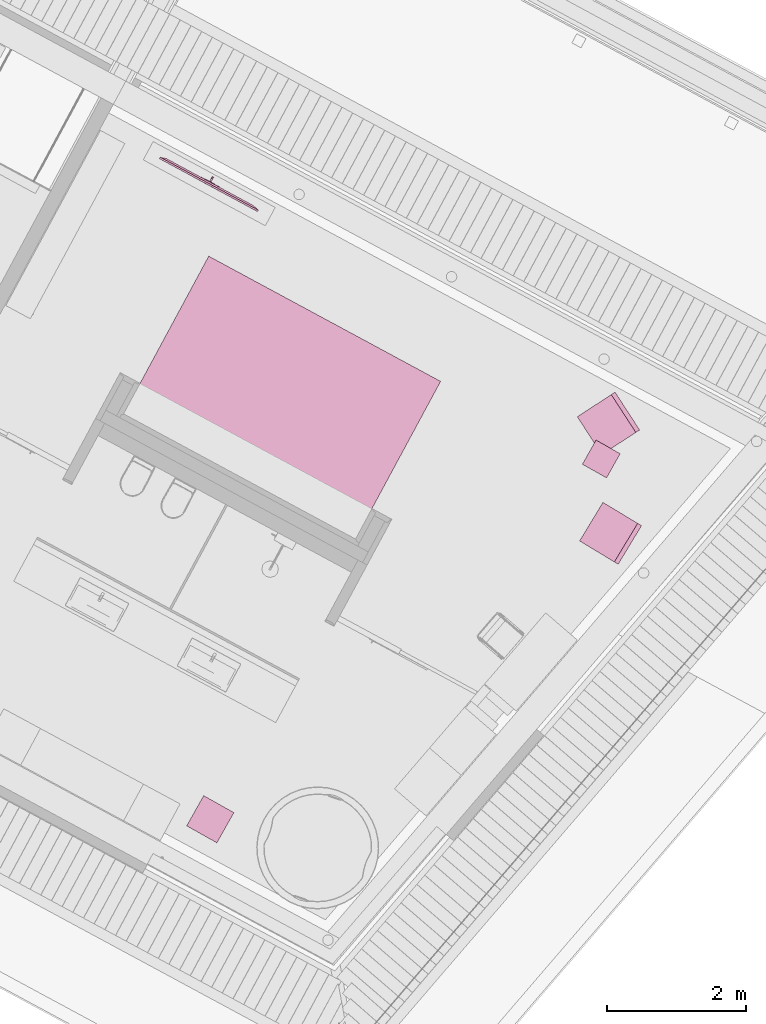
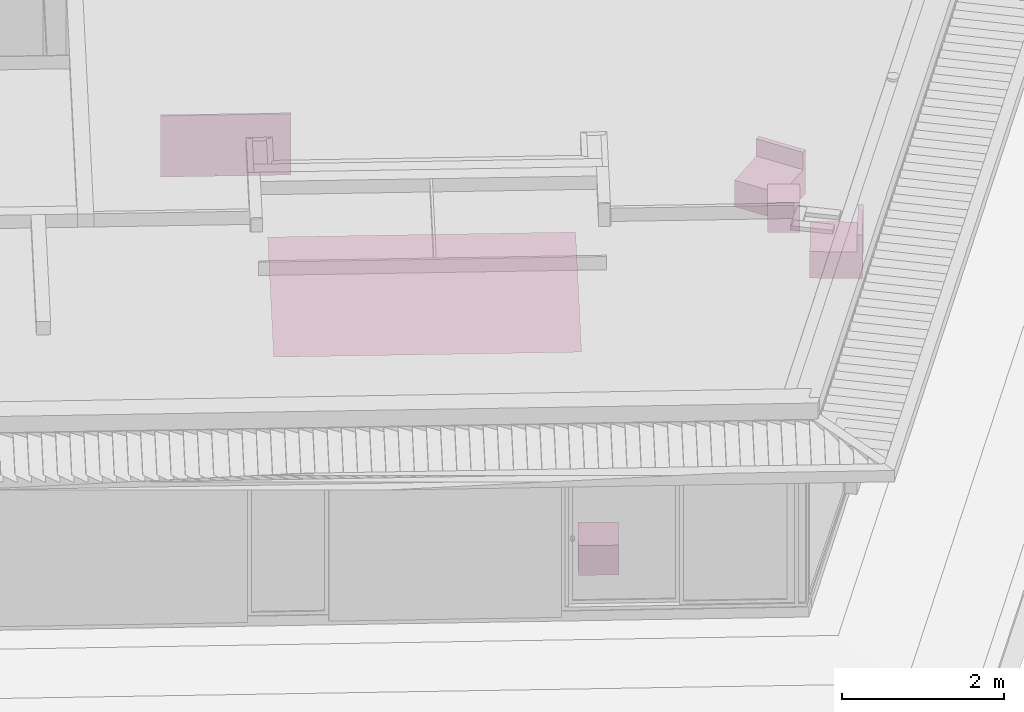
# One storey, part 24 of 48: 6 furnishings.
"""IFC2X3 building model written with IfcOpenShell, lengths in metres."""

from ifc_helpers import new_model, entity, si_unit, converted_unit, derived_unit, money_unit, direction, frame, origin_with_axes, place, context, subcontext, project, spatial, open_shell, faceted_brep, surface_model, source, transform, mapped, type_object, element, save


model = new_model("IFC2X3")

# Units and contexts
model_context = context("Model", 3, precision=1e-05, world=origin_with_axes(), true_north=direction((0.0, 1.0)))
body_context = subcontext(model_context, "Body", "Model", "MODEL_VIEW")
ifc_project = project(units=[si_unit("LENGTHUNIT", "METRE"), si_unit("AREAUNIT", "SQUARE_METRE"), si_unit("VOLUMEUNIT", "CUBIC_METRE"), converted_unit("PLANEANGLEUNIT", "DEGREE", entity("IfcPlaneAngleMeasure", 0.0174532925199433), si_unit("PLANEANGLEUNIT", "RADIAN"), dimensions=[0, 0, 0, 0, 0, 0, 0]), money_unit("EUR"), converted_unit("TIMEUNIT", "Year", entity("IfcTimeMeasure", 31556926.0), si_unit("TIMEUNIT", "SECOND"), dimensions=[0, 0, 1, 0, 0, 0, 0]), si_unit("MASSUNIT", "GRAM", prefix="KILO"), si_unit("THERMODYNAMICTEMPERATUREUNIT", "DEGREE_CELSIUS"), si_unit("LUMINOUSINTENSITYUNIT", "LUMEN"), si_unit("ENERGYUNIT", "JOULE", prefix="MEGA"), derived_unit("THERMALCONDUCTANCEUNIT", [(si_unit("POWERUNIT", "WATT"), 1), (si_unit("LENGTHUNIT", "METRE"), -1), (si_unit("THERMODYNAMICTEMPERATUREUNIT", "KELVIN"), -1)]), derived_unit("SPECIFICHEATCAPACITYUNIT", [(si_unit("ENERGYUNIT", "JOULE"), 1), (si_unit("MASSUNIT", "GRAM", prefix="KILO"), -1), (si_unit("THERMODYNAMICTEMPERATUREUNIT", "KELVIN"), -1)]), derived_unit("MASSDENSITYUNIT", [(si_unit("MASSUNIT", "GRAM", prefix="KILO"), 1), (si_unit("VOLUMEUNIT", "CUBIC_METRE"), -1)])], contexts=[model_context])

# Site, building, storey
site_placement = place(None, frame((-3.949935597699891, 1.740105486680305, 0.0), z_axis=(0.0, 0.0, 1.0), x_axis=(0.8799804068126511, -0.475009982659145, 0.0)))
site = spatial("IfcSite", under=ifc_project, at=site_placement, Name="Gelände", CompositionType="ELEMENT")
building_placement = place(site_placement, origin_with_axes())
building = spatial("IfcBuilding", under=site, at=building_placement, Name="Gebäude", CompositionType="ELEMENT")
storey_placement = place(building_placement, frame((0.0, 0.0, 4.55), z_axis=(0.0, 0.0, 1.0), x_axis=(1.0, 0.0, 0.0)))
storey = spatial("IfcBuildingStorey", under=building, at=storey_placement, Name="Staffelgeschoss", CompositionType="ELEMENT", Elevation=4.55)

# Furnishings
furnishing_element_type_1 = type_object("IfcFurnishingElementType", Name="Flachbildfernseher 22")
shared_shape_1 = source(origin_with_axes(), body_context, "Body", "Brep", [
    faceted_brep([(-0.7294179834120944, 0.06000000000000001, 0.5362351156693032), (-0.8794179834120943, 0.06000000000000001, 0.5362351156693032), (-0.8794179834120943, 0.05000000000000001, 0.5362351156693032), (-0.7294179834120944, 0.05000000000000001, 0.5362351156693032), (-0.7294179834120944, 0.06, 0.3862351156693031), (-0.8794179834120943, 0.06, 0.3862351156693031), (-0.8794179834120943, 0.05, 0.3862351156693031), (-0.7294179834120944, 0.05, 0.3862351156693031)], [[[0, 1, 2, 3]], [[0, 4, 5, 1]], [[1, 5, 6, 2]], [[3, 2, 6, 7]], [[4, 0, 3, 7]], [[5, 4, 7, 6]]]),
    faceted_brep([(-0.6544179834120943, 0.055, 0.3662351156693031), (-0.6544179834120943, 0.055, 0.3862351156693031), (-0.6544179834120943, 0.05, 0.3862351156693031), (-0.6544179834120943, 0.05, 0.3662351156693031), (-0.9544179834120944, 0.055, 0.3662351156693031), (-0.9544179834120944, 0.055, 0.3862351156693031), (-0.9544179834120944, 0.05, 0.3862351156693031), (-0.9544179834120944, 0.05, 0.3662351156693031)], [[[0, 1, 2, 3]], [[0, 4, 5, 1]], [[1, 5, 6, 2]], [[3, 2, 6, 7]], [[4, 0, 3, 7]], [[5, 4, 7, 6]]]),
    faceted_brep([(-0.6544179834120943, 0.05500000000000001, 0.5562351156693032), (-0.6544179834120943, 0.05000000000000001, 0.5562351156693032), (-0.6544179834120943, 0.05000000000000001, 0.5362351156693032), (-0.6544179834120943, 0.05500000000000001, 0.5362351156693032), (-0.9544179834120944, 0.05500000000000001, 0.5562351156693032), (-0.9544179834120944, 0.05000000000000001, 0.5562351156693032), (-0.9544179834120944, 0.05000000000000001, 0.5362351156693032), (-0.9544179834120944, 0.05500000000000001, 0.5362351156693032)], [[[0, 1, 2, 3]], [[4, 5, 1, 0]], [[1, 5, 6, 2]], [[3, 2, 6, 7]], [[0, 3, 7, 4]], [[7, 6, 5, 4]]]),
    faceted_brep([(-0.6694179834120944, 0.05999999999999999, 0.3487351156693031), (-0.6694179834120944, 0.06, 0.5737351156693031), (-0.6594179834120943, 0.06, 0.5737351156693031), (-0.6594179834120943, 0.05999999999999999, 0.3487351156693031), (-0.6694179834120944, 0.04999999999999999, 0.3112351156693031), (-0.6694179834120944, 0.05, 0.6112351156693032), (-0.6594179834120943, 0.05, 0.6112351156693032), (-0.6594179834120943, 0.04999999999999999, 0.3112351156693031)], [[[0, 1, 2, 3]], [[0, 4, 5, 1]], [[1, 5, 6, 2]], [[3, 2, 6, 7]], [[4, 0, 3, 7]], [[5, 4, 7, 6]]]),
    faceted_brep([(-0.9394179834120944, 0.06, 0.3487351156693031), (-0.9494179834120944, 0.06, 0.3487351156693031), (-0.9494179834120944, 0.06000000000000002, 0.5737351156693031), (-0.9394179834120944, 0.06000000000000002, 0.5737351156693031), (-0.9394179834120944, 0.05, 0.3112351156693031), (-0.9494179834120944, 0.05, 0.3112351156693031), (-0.9494179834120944, 0.05000000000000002, 0.6112351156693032), (-0.9394179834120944, 0.05000000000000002, 0.6112351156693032)], [[[0, 1, 2, 3]], [[4, 5, 1, 0]], [[1, 5, 6, 2]], [[3, 2, 6, 7]], [[0, 3, 7, 4]], [[7, 6, 5, 4]]]),
    faceted_brep([(-0.8169179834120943, 0.09375000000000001, 0.4737351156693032), (-0.8161641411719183, 0.09802525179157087, 0.4737351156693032), (-0.8161641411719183, 0.09802525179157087, 0.4237351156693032), (-0.8169179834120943, 0.09375000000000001, 0.4237351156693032), (-0.8161641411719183, 0.08947474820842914, 0.4737351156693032), (-0.8139935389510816, 0.08571515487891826, 0.4737351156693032), (-0.8106679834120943, 0.08292468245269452, 0.4737351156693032), (-0.806588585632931, 0.0814399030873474, 0.4737351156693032), (-0.8022473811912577, 0.08143990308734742, 0.4737351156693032), (-0.7981679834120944, 0.08292468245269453, 0.4737351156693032), (-0.7948424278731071, 0.08571515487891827, 0.4737351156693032), (-0.7926718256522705, 0.08947474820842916, 0.4737351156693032), (-0.7919179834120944, 0.09375000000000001, 0.4737351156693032), (-0.7926718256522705, 0.09802525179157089, 0.4737351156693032), (-0.7948424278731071, 0.1017848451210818, 0.4737351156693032), (-0.7981679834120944, 0.1045753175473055, 0.4737351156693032), (-0.8022473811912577, 0.1060600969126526, 0.4737351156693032), (-0.806588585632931, 0.1060600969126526, 0.4737351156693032), (-0.8106679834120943, 0.1045753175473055, 0.4737351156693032), (-0.8139935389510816, 0.1017848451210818, 0.4737351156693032), (-0.8139935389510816, 0.1017848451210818, 0.4237351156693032), (-0.8106679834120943, 0.1045753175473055, 0.4237351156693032), (-0.806588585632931, 0.1060600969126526, 0.4237351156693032), (-0.8022473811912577, 0.1060600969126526, 0.4237351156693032), (-0.7981679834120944, 0.1045753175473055, 0.4237351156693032), (-0.7948424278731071, 0.1017848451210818, 0.4237351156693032), (-0.7926718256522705, 0.09802525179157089, 0.4237351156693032), (-0.7919179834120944, 0.09375000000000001, 0.4237351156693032), (-0.7926718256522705, 0.08947474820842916, 0.4237351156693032), (-0.7948424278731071, 0.08571515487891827, 0.4237351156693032), (-0.7981679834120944, 0.08292468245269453, 0.4237351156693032), (-0.8022473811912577, 0.08143990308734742, 0.4237351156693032), (-0.806588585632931, 0.0814399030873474, 0.4237351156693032), (-0.8106679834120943, 0.08292468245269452, 0.4237351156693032), (-0.8139935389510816, 0.08571515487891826, 0.4237351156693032), (-0.8161641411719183, 0.08947474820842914, 0.4237351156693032)], [[[0, 1, 2, 3]], [[0, 4, 5, 6, 7, 8, 9, 10, 11, 12, 13, 14, 15, 16, 17, 18, 19, 1]], [[1, 19, 20, 2]], [[3, 2, 20, 21, 22, 23, 24, 25, 26, 27, 28, 29, 30, 31, 32, 33, 34, 35]], [[4, 0, 3, 35]], [[5, 4, 35, 34]], [[6, 5, 34, 33]], [[7, 6, 33, 32]], [[8, 7, 32, 31]], [[9, 8, 31, 30]], [[10, 9, 30, 29]], [[11, 10, 29, 28]], [[12, 11, 28, 27]], [[13, 12, 27, 26]], [[14, 13, 26, 25]], [[15, 14, 25, 24]], [[16, 15, 24, 23]], [[17, 16, 23, 22]], [[18, 17, 22, 21]], [[19, 18, 21, 20]]]),
    faceted_brep([(-0.8169179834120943, 0.09375000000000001, 0.4487351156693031), (-0.8169179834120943, 0.06, 0.4487351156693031), (-0.8169179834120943, 0.06, 0.4737351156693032), (-0.8169179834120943, 0.09375000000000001, 0.4737351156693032), (-0.8161641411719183, 0.08947474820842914, 0.4487351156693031), (-0.8139935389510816, 0.08571515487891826, 0.4487351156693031), (-0.8106679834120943, 0.08292468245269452, 0.4487351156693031), (-0.806588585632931, 0.0814399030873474, 0.4487351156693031), (-0.8022473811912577, 0.08143990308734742, 0.4487351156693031), (-0.7981679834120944, 0.08292468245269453, 0.4487351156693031), (-0.7948424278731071, 0.08571515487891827, 0.4487351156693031), (-0.7926718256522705, 0.08947474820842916, 0.4487351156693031), (-0.7919179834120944, 0.09375000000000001, 0.4487351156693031), (-0.7919179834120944, 0.06, 0.4487351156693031), (-0.7919179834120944, 0.06, 0.4737351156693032), (-0.7926718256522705, 0.08947474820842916, 0.4737351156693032), (-0.7948424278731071, 0.08571515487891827, 0.4737351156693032), (-0.7981679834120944, 0.08292468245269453, 0.4737351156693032), (-0.8022473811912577, 0.08143990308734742, 0.4737351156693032), (-0.806588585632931, 0.0814399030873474, 0.4737351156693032), (-0.8106679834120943, 0.08292468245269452, 0.4737351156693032), (-0.8139935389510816, 0.08571515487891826, 0.4737351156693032), (-0.8161641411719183, 0.08947474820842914, 0.4737351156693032), (-0.7919179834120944, 0.09375000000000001, 0.4737351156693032)], [[[0, 1, 2, 3]], [[4, 5, 6, 7, 8, 9, 10, 11, 12, 13, 1, 0]], [[1, 13, 14, 2]], [[15, 16, 17, 18, 19, 20, 21, 22, 3, 2, 14, 23]], [[22, 4, 0, 3]], [[21, 5, 4, 22]], [[20, 6, 5, 21]], [[19, 7, 6, 20]], [[18, 8, 7, 19]], [[17, 9, 8, 18]], [[16, 10, 9, 17]], [[15, 11, 10, 16]], [[23, 12, 11, 15]], [[23, 14, 13, 12]]]),
    faceted_brep([(-0.8139935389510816, 0.1017848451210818, 0.4487351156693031), (-0.8106679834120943, 0.1045753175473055, 0.4487351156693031), (-0.806588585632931, 0.1060600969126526, 0.4487351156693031), (-0.8022473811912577, 0.1060600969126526, 0.4487351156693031), (-0.7981679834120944, 0.1045753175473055, 0.4487351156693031), (-0.7948424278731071, 0.1017848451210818, 0.4487351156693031), (-0.7926718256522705, 0.09802525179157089, 0.4487351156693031), (-0.7919179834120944, 0.09375000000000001, 0.4487351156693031), (-0.7919179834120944, 0.1275, 0.4487351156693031), (-0.8169179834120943, 0.1275, 0.4487351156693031), (-0.8169179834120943, 0.09375000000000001, 0.4487351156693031), (-0.8161641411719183, 0.09802525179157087, 0.4487351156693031), (-0.8139935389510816, 0.1017848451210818, 0.4237351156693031), (-0.8106679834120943, 0.1045753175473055, 0.4237351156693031), (-0.806588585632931, 0.1060600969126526, 0.4237351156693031), (-0.8022473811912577, 0.1060600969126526, 0.4237351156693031), (-0.7981679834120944, 0.1045753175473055, 0.4237351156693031), (-0.7948424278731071, 0.1017848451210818, 0.4237351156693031), (-0.7926718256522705, 0.09802525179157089, 0.4237351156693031), (-0.7919179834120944, 0.09375000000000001, 0.4237351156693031), (-0.7919179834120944, 0.1275, 0.4237351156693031), (-0.8169179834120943, 0.1275, 0.4237351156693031), (-0.8169179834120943, 0.09375000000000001, 0.4237351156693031), (-0.8161641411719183, 0.09802525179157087, 0.4237351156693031)], [[[0, 1, 2, 3, 4, 5, 6, 7, 8, 9, 10, 11]], [[0, 12, 13, 1]], [[1, 13, 14, 2]], [[2, 14, 15, 3]], [[3, 15, 16, 4]], [[4, 16, 17, 5]], [[5, 17, 18, 6]], [[6, 18, 19, 7]], [[19, 20, 8, 7]], [[8, 20, 21, 9]], [[10, 9, 21, 22]], [[10, 22, 23, 11]], [[11, 23, 12, 0]], [[18, 17, 16, 15, 14, 13, 12, 23, 22, 21, 20, 19]]]),
    faceted_brep([(-0.7894179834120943, 0.1275, 0.3612351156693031), (-0.8194179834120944, 0.1275, 0.3612351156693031), (-0.8194179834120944, 0.1375, 0.3612351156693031), (-0.7894179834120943, 0.1375, 0.3612351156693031), (-0.7894179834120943, 0.1275, 0.5112351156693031), (-0.8194179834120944, 0.1275, 0.5112351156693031), (-0.8194179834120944, 0.1375, 0.5112351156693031), (-0.7894179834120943, 0.1375, 0.5112351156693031)], [[[0, 1, 2, 3]], [[0, 4, 5, 1]], [[1, 5, 6, 2]], [[3, 2, 6, 7]], [[4, 0, 3, 7]], [[5, 4, 7, 6]]]),
    faceted_brep([(-1.588835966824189, 0.0, 0.02), (-1.588835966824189, 0.0, 0.9024702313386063), (-1.588835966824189, 0.0009999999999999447, 0.9024702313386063), (-1.588835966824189, 0.0009999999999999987, 0.02), (-0.02, 0.0, 0.02), (-0.02, 0.0, 0.9024702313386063), (-0.02, 0.0009999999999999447, 0.9024702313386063), (-0.02, 0.0009999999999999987, 0.02)], [[[0, 1, 2, 3]], [[0, 4, 5, 1]], [[1, 5, 6, 2]], [[3, 2, 6, 7]], [[4, 0, 3, 7]], [[5, 4, 7, 6]]]),
    faceted_brep([(-1.608835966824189, 0.0, 0.9224702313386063), (-1.608835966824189, 0.0, 0.0), (0.0, 0.0, 0.0), (0.0, 0.0, 0.9224702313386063), (-0.02000000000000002, 0.0, 0.02000000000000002), (-1.588835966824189, 0.0, 0.02000000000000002), (-1.588835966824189, 0.0, 0.9024702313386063), (-0.02000000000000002, 0.0, 0.9024702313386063), (-1.608835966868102, 0.025, -3.895163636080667e-10), (-1.608835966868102, 0.02499999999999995, 0.9224702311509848), (3.895163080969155e-10, 0.025, -3.895163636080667e-10), (3.895163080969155e-10, 0.02499999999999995, 0.9224702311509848), (-0.02000000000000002, 0.0009999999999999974, 0.02000000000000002), (-1.588835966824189, 0.0009999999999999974, 0.02000000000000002), (-1.588835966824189, 0.0009999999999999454, 0.9024702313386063), (-0.02000000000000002, 0.0009999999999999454, 0.9024702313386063), (-1.515534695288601, 0.05000000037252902, 0.09330127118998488), (-1.515534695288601, 0.05000000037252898, 0.8291689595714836), (-0.09330127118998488, 0.05000000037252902, 0.09330127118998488), (-0.09330127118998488, 0.05000000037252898, 0.8291689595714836)], [[[0, 1, 2, 3], [4, 5, 6, 7]], [[8, 1, 0, 9]], [[10, 2, 1, 8]], [[11, 3, 2, 10]], [[9, 0, 3, 11]], [[4, 12, 13, 5]], [[5, 13, 14, 6]], [[6, 14, 15, 7]], [[7, 15, 12, 4]], [[16, 8, 9, 17]], [[18, 10, 8, 16]], [[19, 11, 10, 18]], [[17, 9, 11, 19]], [[14, 13, 12, 15]], [[17, 19, 18, 16]]]),
    faceted_brep([(-0.8044179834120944, -0.0008000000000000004, 0.005), (-0.8205063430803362, -0.0008000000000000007, 0.01), (-0.8205063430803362, 0.0, 0.01), (-0.8044179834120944, 0.0, 0.005), (-0.7883296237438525, -0.0008000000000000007, 0.01), (-0.6435343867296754, -0.000800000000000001, 0.015), (-0.9653015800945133, -0.000800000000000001, 0.015), (-0.9653015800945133, 0.0, 0.015), (-0.6435343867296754, 0.0, 0.015), (-0.7883296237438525, 0.0, 0.01)], [[[0, 1, 2, 3]], [[0, 4, 5, 6, 1]], [[1, 6, 7, 2]], [[3, 2, 7, 8, 9]], [[4, 0, 3, 9]], [[5, 4, 9, 8]], [[6, 5, 8, 7]]]),
    faceted_brep([(-0.2145114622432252, 0.009999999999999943, 0.9224702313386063), (-0.1072557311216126, 0.009999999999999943, 0.9224702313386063), (-0.1072557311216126, 0.009999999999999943, 0.9240702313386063), (-0.2145114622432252, 0.009999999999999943, 0.9240702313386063), (-0.2145114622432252, 0.01624999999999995, 0.9224702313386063), (-0.1072557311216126, 0.01624999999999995, 0.9224702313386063), (-0.1072557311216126, 0.01624999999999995, 0.9240702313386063), (-0.2145114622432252, 0.01624999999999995, 0.9240702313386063)], [[[0, 1, 2, 3]], [[1, 0, 4, 5]], [[2, 1, 5, 6]], [[3, 2, 6, 7]], [[0, 3, 7, 4]], [[5, 4, 7, 6]]]),
    faceted_brep([(-0.3294283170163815, 0.009999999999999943, 0.9224702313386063), (-0.2221725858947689, 0.009999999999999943, 0.9224702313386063), (-0.2221725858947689, 0.009999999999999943, 0.9240702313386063), (-0.3294283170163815, 0.009999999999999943, 0.9240702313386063), (-0.3294283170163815, 0.01624999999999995, 0.9224702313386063), (-0.2221725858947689, 0.01624999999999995, 0.9224702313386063), (-0.2221725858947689, 0.01624999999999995, 0.9240702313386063), (-0.3294283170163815, 0.01624999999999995, 0.9240702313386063)], [[[0, 1, 2, 3]], [[1, 0, 4, 5]], [[2, 1, 5, 6]], [[3, 2, 6, 7]], [[0, 3, 7, 4]], [[5, 4, 7, 6]]]),
    faceted_brep([(-0.3907173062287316, 0.009999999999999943, 0.9224702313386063), (-0.3370894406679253, 0.009999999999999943, 0.9224702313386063), (-0.3370894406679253, 0.009999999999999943, 0.9240702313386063), (-0.3907173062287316, 0.009999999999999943, 0.9240702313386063), (-0.3907173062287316, 0.01624999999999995, 0.9224702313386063), (-0.3370894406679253, 0.01624999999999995, 0.9224702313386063), (-0.3370894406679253, 0.01624999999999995, 0.9240702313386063), (-0.3907173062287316, 0.01624999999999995, 0.9240702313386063)], [[[0, 1, 2, 3]], [[1, 0, 4, 5]], [[2, 1, 5, 6]], [[3, 2, 6, 7]], [[0, 3, 7, 4]], [[5, 4, 7, 6]]]),
])
furnishing_1_placement = place(storey_placement, frame((19.93206846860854, 10.28438647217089, 0.2999999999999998), z_axis=(0.0, 0.0, 1.0), x_axis=(1.0, 0.0, 0.0)))
element("IfcFurnishingElement", 1, at=furnishing_1_placement, inside=storey, type_object=furnishing_element_type_1, Name="Objekt-0064", context=body_context, shape_type="MappedRepresentation", body=[
    mapped(shared_shape_1, transform((0.0, 0.0, 0.0))),
])
furnishing_element_type_2 = type_object("IfcFurnishingElementType", Name="Armstuhl 2 22")
shared_shape_2 = source(origin_with_axes(), body_context, "Body", "Brep", [
    faceted_brep([(0.65, 0.0, 0.0), (0.65, 0.0, 0.4), (0.0, 0.0, 0.4), (0.0, 0.0, 0.0), (0.65, 0.65, 0.0), (0.65, 0.65, 0.66), (0.65, 0.5850000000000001, 0.66), (0.65, 0.5850000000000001, 0.4), (0.0, 0.5850000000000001, 0.4), (0.0, 0.5850000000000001, 0.66), (0.0, 0.65, 0.66), (0.0, 0.65, 0.0)], [[[0, 1, 2, 3]], [[0, 4, 5, 6, 7, 1]], [[1, 7, 8, 2]], [[3, 2, 8, 9, 10, 11]], [[4, 0, 3, 11]], [[5, 4, 11, 10]], [[6, 5, 10, 9]], [[7, 6, 9, 8]]]),
])
furnishing_2_placement = place(storey_placement, frame((26.30554814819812, 8.962025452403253, 0.0), z_axis=(0.0, 0.0, 1.0), x_axis=(-0.04920142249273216, -0.9987888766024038, 0.0)))
element("IfcFurnishingElement", 2, at=furnishing_2_placement, inside=storey, type_object=furnishing_element_type_2, Name="Objekt-0070", context=body_context, shape_type="MappedRepresentation", body=[
    mapped(shared_shape_2, transform((0.0, 0.0, 0.0))),
])
furnishing_element_type_3 = type_object("IfcFurnishingElementType", Name="Couchtisch 1 22")
furnishing_3_placement = place(storey_placement, frame((26.1836384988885, 9.2973628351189, 0.0), z_axis=(0.0, 0.0, 1.0), x_axis=(0.9998434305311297, -0.01769503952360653, 0.0)))
element("IfcFurnishingElement", 3, at=furnishing_3_placement, inside=storey, type_object=furnishing_element_type_3, Name="Objekt-0072", context=body_context, shape_type="Brep", body=[
    faceted_brep([(0.0, 0.0, 0.0), (0.0, 0.0, 0.45), (-0.4, 0.0, 0.45), (-0.4, 0.0, 0.0), (0.0, 0.4, 0.0), (0.0, 0.4, 0.45), (-0.4, 0.4, 0.45), (-0.4, 0.4, 0.0)], [[[0, 1, 2, 3]], [[4, 5, 1, 0]], [[1, 5, 6, 2]], [[3, 2, 6, 7]], [[0, 3, 7, 4]], [[7, 6, 5, 4]]]),
])
furnishing_4_placement = place(storey_placement, frame((23.73925952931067, 1.99826209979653, 0.0), z_axis=(0.0, 0.0, 1.0), x_axis=(0.9998434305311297, -0.01769503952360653, 0.0)))
element("IfcFurnishingElement", 4, at=furnishing_4_placement, inside=storey, type_object=furnishing_element_type_3, Name="Objekt-0072", context=body_context, shape_type="Brep", body=[
    faceted_brep([(0.0, 0.0, 0.0), (0.0, 0.0, 0.45), (-0.5, 0.0, 0.45), (-0.5, 0.0, 0.0), (0.0, 0.5, 0.0), (0.0, 0.5, 0.45), (-0.5, 0.5, 0.45), (-0.5, 0.5, 0.0)], [[[0, 1, 2, 3]], [[4, 5, 1, 0]], [[1, 5, 6, 2]], [[3, 2, 6, 7]], [[0, 3, 7, 4]], [[7, 6, 5, 4]]]),
])
furnishing_5_placement = place(storey_placement, frame((25.96352773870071, 9.560824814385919, 0.0), z_axis=(0.0, 0.0, 1.0), x_axis=(0.8774027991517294, -0.4797544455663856, 0.0)))
element("IfcFurnishingElement", 5, at=furnishing_5_placement, inside=storey, type_object=furnishing_element_type_2, Name="Objekt-0070", context=body_context, shape_type="Brep", body=[
    faceted_brep([(-0.65, 0.0, 0.0), (0.0, 0.0, 0.0), (0.0, 0.0, 0.4), (-0.65, 0.0, 0.4), (-0.65, 0.65, 0.0), (0.0, 0.65, 0.0), (0.0, 0.65, 0.66), (0.0, 0.5850000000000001, 0.66), (0.0, 0.5850000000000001, 0.4), (-0.65, 0.5850000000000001, 0.4), (-0.65, 0.5850000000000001, 0.66), (-0.65, 0.65, 0.66)], [[[0, 1, 2, 3]], [[4, 5, 1, 0]], [[1, 5, 6, 7, 8, 2]], [[3, 2, 8, 9]], [[0, 3, 9, 10, 11, 4]], [[11, 6, 5, 4]], [[10, 7, 6, 11]], [[9, 8, 7, 10]]]),
])
furnishing_element_type_4 = type_object("IfcFurnishingElementType", Name="Teppich 22")
furnishing_6_placement = place(storey_placement, frame((19.61753332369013, 6.802148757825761, -5.892262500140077e-07), z_axis=(0.0, 0.0, 1.0), x_axis=(0.0, -1.0, 0.0)))
element("IfcFurnishingElement", 6, at=furnishing_6_placement, inside=storey, type_object=furnishing_element_type_4, Name="Objekt-0074", context=body_context, shape_type="SurfaceModel", body=[
    surface_model("IfcShellBasedSurfaceModel", [(0.0, 0.0, 0.001), (-2.583505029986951, 0.0, 0.001), (-2.583505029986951, 3.800000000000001, 0.001), (0.0, 3.800000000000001, 0.001)], [open_shell([[[0, 1, 2, 3]]])]),
])

save(model, "model.ifc")
